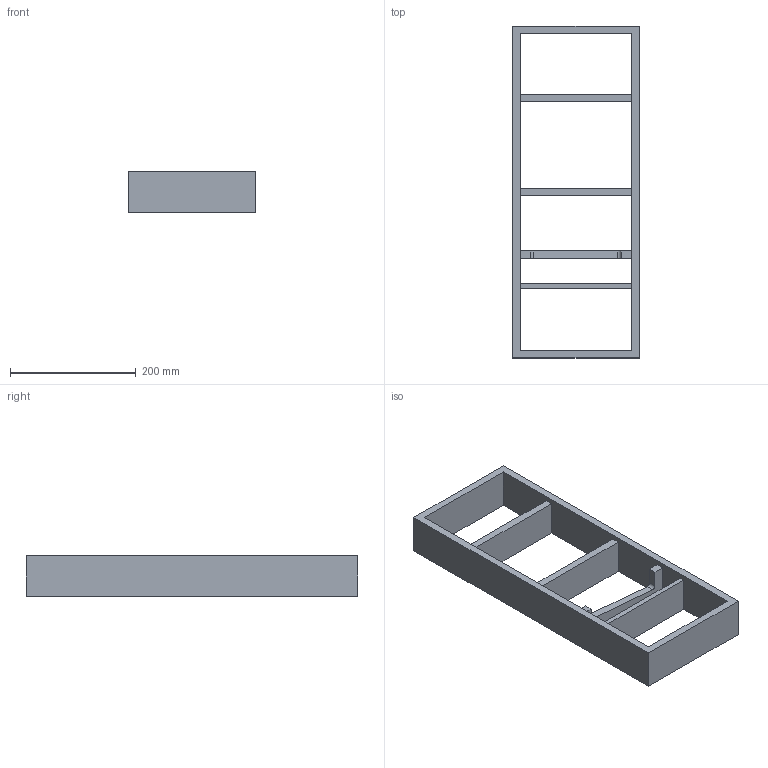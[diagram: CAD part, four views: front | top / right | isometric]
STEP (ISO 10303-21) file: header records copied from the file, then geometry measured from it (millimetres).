
FILE_DESCRIPTION (( 'STEP AP214' ), '1' );
FILE_NAME ('Vario Messer_Modul_H65_NL550_B300_19mm_Alu_Buche.step', '2010-10-07T06:11:49', ( 'grass' ), ( '' ), 'SwSTEP 2.0', 'SolidWorks 2010', '' );
FILE_SCHEMA (( 'AUTOMOTIVE_DESIGN' ));
Length unit declared in the file: millimetre
Products named in the file (1): Vario Messer_Modul_H65_NL550_B300_19mm_Alu_Buche
Bounding box: 202 x 529 x 65 mm (x, y, z)
Volume: 1504546.8 mm3; surface area: 302683.5 mm2
Topology: 1 solids, 1 shells, 28 faces, 90 edges, 60 vertices
Faces by surface type: plane 26, cylinder 2
Entity records: 1032 total; most frequent: ORIENTED_EDGE 180, CARTESIAN_POINT 179, DIRECTION 152, EDGE_CURVE 90, LINE 86, VECTOR 86, VERTEX_POINT 60, EDGE_LOOP 34
